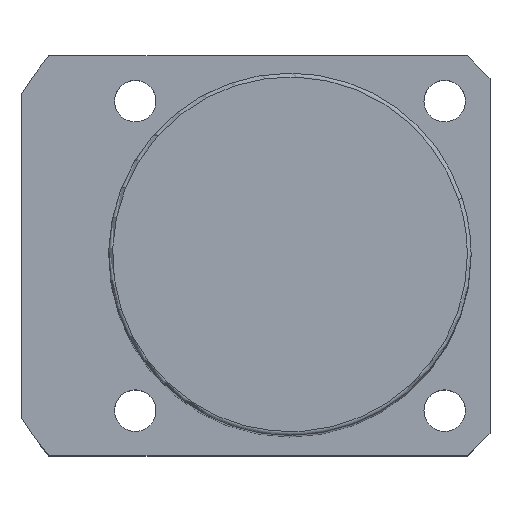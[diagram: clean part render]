
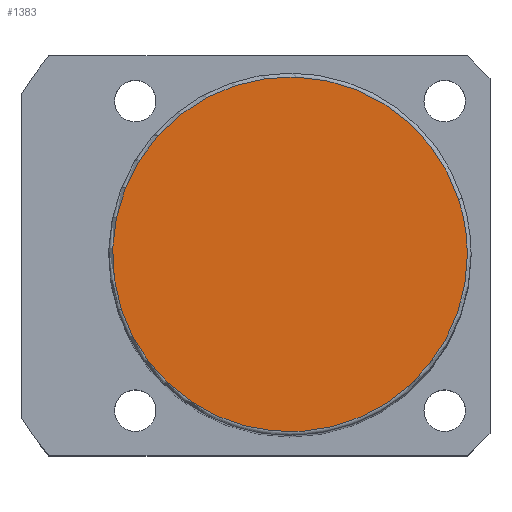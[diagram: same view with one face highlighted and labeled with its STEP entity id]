
A CAD part, top view. The second image highlights one B-rep face of the part: STEP entity #1383.
In plain terms, the highlighted planar face has unit normal (0, 0, 1).
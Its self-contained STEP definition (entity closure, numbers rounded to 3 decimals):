
#1349=CARTESIAN_POINT('',(23.5,0.0,129.0));
#1350=VERTEX_POINT('',#1349);
#1351=CARTESIAN_POINT('',(22.35,7.262,129.0));
#1352=VERTEX_POINT('',#1351);
#1353=CARTESIAN_POINT('',(0.0,0.0,129.0));
#1354=DIRECTION('',(0.0,0.0,1.0));
#1355=DIRECTION('',(1.0,0.0,0.0));
#1356=AXIS2_PLACEMENT_3D('',#1353,#1354,#1355);
#1357=CIRCLE('',#1356,23.5);
#1358=EDGE_CURVE('no 1868',#1350,#1352,#1357,.T.);
#1359=ORIENTED_EDGE('',*,*,#1358,.T.);
#1360=CARTESIAN_POINT('',(-22.35,-7.262,129.0));
#1361=VERTEX_POINT('',#1360);
#1362=CARTESIAN_POINT('',(0.0,0.0,129.0));
#1363=DIRECTION('',(0.0,0.0,1.0));
#1364=DIRECTION('',(1.0,0.0,0.0));
#1365=AXIS2_PLACEMENT_3D('',#1362,#1363,#1364);
#1366=CIRCLE('',#1365,23.5);
#1367=EDGE_CURVE('no 1874',#1352,#1361,#1366,.T.);
#1368=ORIENTED_EDGE('',*,*,#1367,.T.);
#1369=CARTESIAN_POINT('',(0.0,0.0,129.0));
#1370=DIRECTION('',(0.0,0.0,1.0));
#1371=DIRECTION('',(1.0,0.0,0.0));
#1372=AXIS2_PLACEMENT_3D('',#1369,#1370,#1371);
#1373=CIRCLE('',#1372,23.5);
#1374=EDGE_CURVE('no 1878',#1361,#1350,#1373,.T.);
#1375=ORIENTED_EDGE('',*,*,#1374,.T.);
#1376=EDGE_LOOP('',(#1359,#1368,#1375));
#1377=FACE_OUTER_BOUND('',#1376,.T.);
#1378=CARTESIAN_POINT('',(0.0,0.0,129.0));
#1379=DIRECTION('',(0.0,0.0,1.0));
#1380=DIRECTION('',(1.0,0.0,0.0));
#1381=AXIS2_PLACEMENT_3D('',#1378,#1379,#1380);
#1382=PLANE('',#1381);
#1383=ADVANCED_FACE('no 1859',(#1377),#1382,.T.);
